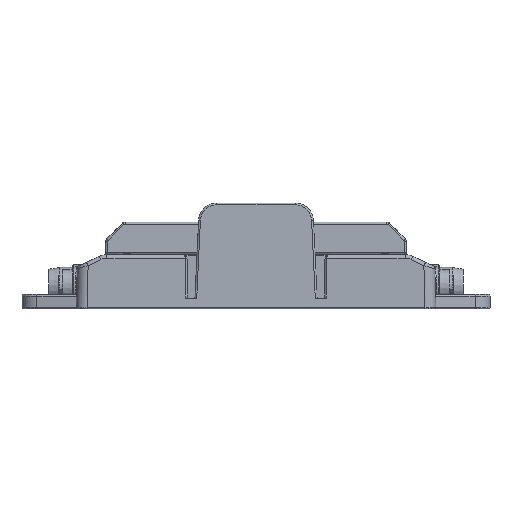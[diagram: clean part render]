
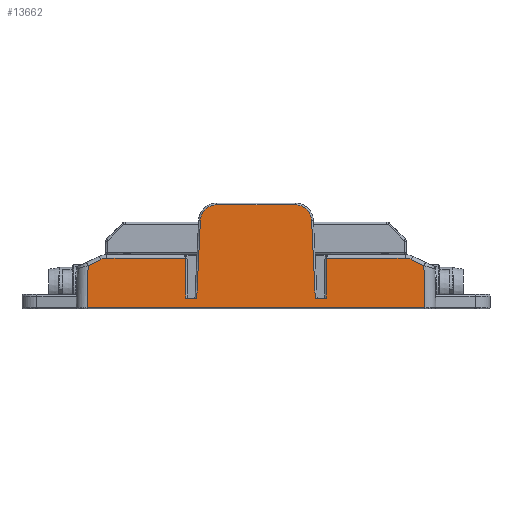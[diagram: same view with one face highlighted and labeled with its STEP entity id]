
A CAD part, front view. The second image highlights one B-rep face of the part: STEP entity #13662.
In plain terms, the highlighted planar face has unit normal (0, -1, 0.024).
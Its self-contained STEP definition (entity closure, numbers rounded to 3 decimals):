
#5786=B_SPLINE_CURVE_WITH_KNOTS('',3,(#54538,#54539,#54540,#54541,#54542,
#54543),.UNSPECIFIED.,.F.,.F.,(4,2,4),(0.,0.5,1.),.UNSPECIFIED.);
#5787=B_SPLINE_CURVE_WITH_KNOTS('',3,(#54547,#54548,#54549,#54550,#54551,
#54552),.UNSPECIFIED.,.F.,.F.,(4,2,4),(0.,0.5,1.),.UNSPECIFIED.);
#8469=LINE('',#54451,#11074);
#8500=LINE('',#54532,#11105);
#8501=LINE('',#54534,#11106);
#8502=LINE('',#54536,#11107);
#8503=LINE('',#54545,#11108);
#8504=LINE('',#54554,#11109);
#8505=LINE('',#54556,#11110);
#8506=LINE('',#54558,#11111);
#8507=LINE('',#54560,#11112);
#8508=LINE('',#54564,#11113);
#8509=LINE('',#54566,#11114);
#8510=LINE('',#54568,#11115);
#8511=LINE('',#54570,#11116);
#8512=LINE('',#54572,#11117);
#11074=VECTOR('',#44642,1.);
#11105=VECTOR('',#44693,1.);
#11106=VECTOR('',#44694,1.);
#11107=VECTOR('',#44695,1.);
#11108=VECTOR('',#44696,1.);
#11109=VECTOR('',#44697,1.);
#11110=VECTOR('',#44698,1.);
#11111=VECTOR('',#44699,1.);
#11112=VECTOR('',#44700,1.);
#11113=VECTOR('',#44703,1.);
#11114=VECTOR('',#44704,1.);
#11115=VECTOR('',#44705,1.);
#11116=VECTOR('',#44706,1.);
#11117=VECTOR('',#44707,1.);
#13662=ADVANCED_FACE('',(#16760),#15810,.T.);
#15810=PLANE('',#41010);
#16760=FACE_OUTER_BOUND('',#18648,.T.);
#18648=EDGE_LOOP('',(#21265,#21266,#21267,#21268,#21269,#21270,#21271,#21272,
#21273,#21274,#21275,#21276,#21277,#21278,#21279,#21280,#21281,#21282));
#21265=ORIENTED_EDGE('',*,*,#35552,.T.);
#21266=ORIENTED_EDGE('',*,*,#35591,.T.);
#21267=ORIENTED_EDGE('',*,*,#35592,.F.);
#21268=ORIENTED_EDGE('',*,*,#35593,.T.);
#21269=ORIENTED_EDGE('',*,*,#35594,.T.);
#21270=ORIENTED_EDGE('',*,*,#35595,.T.);
#21271=ORIENTED_EDGE('',*,*,#35596,.T.);
#21272=ORIENTED_EDGE('',*,*,#35597,.T.);
#21273=ORIENTED_EDGE('',*,*,#35598,.F.);
#21274=ORIENTED_EDGE('',*,*,#35599,.F.);
#21275=ORIENTED_EDGE('',*,*,#35600,.T.);
#21276=ORIENTED_EDGE('',*,*,#35601,.T.);
#21277=ORIENTED_EDGE('',*,*,#35602,.T.);
#21278=ORIENTED_EDGE('',*,*,#35603,.T.);
#21279=ORIENTED_EDGE('',*,*,#35604,.T.);
#21280=ORIENTED_EDGE('',*,*,#35605,.T.);
#21281=ORIENTED_EDGE('',*,*,#35606,.T.);
#21282=ORIENTED_EDGE('',*,*,#35589,.T.);
#31951=VERTEX_POINT('',#54439);
#31953=VERTEX_POINT('',#54450);
#31989=VERTEX_POINT('',#54526);
#31990=VERTEX_POINT('',#54533);
#31991=VERTEX_POINT('',#54535);
#31992=VERTEX_POINT('',#54537);
#31993=VERTEX_POINT('',#54544);
#31994=VERTEX_POINT('',#54546);
#31995=VERTEX_POINT('',#54553);
#31996=VERTEX_POINT('',#54555);
#31997=VERTEX_POINT('',#54557);
#31998=VERTEX_POINT('',#54559);
#31999=VERTEX_POINT('',#54561);
#32000=VERTEX_POINT('',#54563);
#32001=VERTEX_POINT('',#54565);
#32002=VERTEX_POINT('',#54567);
#32003=VERTEX_POINT('',#54569);
#32004=VERTEX_POINT('',#54571);
#35552=EDGE_CURVE('',#31951,#31953,#8469,.T.);
#35589=EDGE_CURVE('',#31989,#31951,#40842,.T.);
#35591=EDGE_CURVE('',#31953,#31990,#8500,.T.);
#35592=EDGE_CURVE('',#31991,#31990,#8501,.T.);
#35593=EDGE_CURVE('',#31991,#31992,#8502,.T.);
#35594=EDGE_CURVE('',#31992,#31993,#5786,.T.);
#35595=EDGE_CURVE('',#31993,#31994,#8503,.T.);
#35596=EDGE_CURVE('',#31994,#31995,#5787,.T.);
#35597=EDGE_CURVE('',#31995,#31996,#8504,.T.);
#35598=EDGE_CURVE('',#31997,#31996,#8505,.T.);
#35599=EDGE_CURVE('',#31998,#31997,#8506,.T.);
#35600=EDGE_CURVE('',#31998,#31999,#8507,.T.);
#35601=EDGE_CURVE('',#31999,#32000,#40843,.T.);
#35602=EDGE_CURVE('',#32000,#32001,#8508,.T.);
#35603=EDGE_CURVE('',#32001,#32002,#8509,.T.);
#35604=EDGE_CURVE('',#32002,#32003,#8510,.T.);
#35605=EDGE_CURVE('',#32003,#32004,#8511,.T.);
#35606=EDGE_CURVE('',#32004,#31989,#8512,.T.);
#40842=ELLIPSE('',#41007,4.001,4.);
#40843=ELLIPSE('',#41009,4.001,4.);
#41007=AXIS2_PLACEMENT_3D('',#54525,#44689,#44690);
#41009=AXIS2_PLACEMENT_3D('',#54562,#44701,#44702);
#41010=AXIS2_PLACEMENT_3D('',#54573,#44708,#44709);
#44642=DIRECTION('',(-1.,0.,0.));
#44689=DIRECTION('',(0.,-1.,0.024));
#44690=DIRECTION('',(0.,-0.024,-1.));
#44693=DIRECTION('',(-0.009,-0.024,-1.));
#44694=DIRECTION('',(1.,0.,0.));
#44695=DIRECTION('',(-0.047,0.024,0.999));
#44696=DIRECTION('',(-1.,0.,0.));
#44697=DIRECTION('',(-0.047,-0.024,-0.999));
#44698=DIRECTION('',(1.,0.,0.));
#44699=DIRECTION('',(0.009,-0.024,-1.));
#44700=DIRECTION('',(-1.,0.,0.));
#44701=DIRECTION('',(0.,-1.,0.024));
#44702=DIRECTION('',(0.,-0.024,-1.));
#44703=DIRECTION('',(-0.906,-0.01,-0.423));
#44704=DIRECTION('',(-0.026,-0.024,-0.999));
#44705=DIRECTION('',(1.,0.,0.));
#44706=DIRECTION('',(-0.026,0.024,0.999));
#44707=DIRECTION('',(-0.906,0.01,0.423));
#44708=DIRECTION('',(0.,-1.,0.024));
#44709=DIRECTION('',(0.,-0.024,-1.));
#54439=CARTESIAN_POINT('',(41.278,0.337,13.724));
#54450=CARTESIAN_POINT('',(19.613,0.337,13.72));
#54451=CARTESIAN_POINT('',(-77.,0.337,13.724));
#54525=CARTESIAN_POINT('',(41.278,0.24,9.724));
#54526=CARTESIAN_POINT('',(42.968,0.328,13.349));
#54532=CARTESIAN_POINT('',(19.514,0.063,2.388));
#54533=CARTESIAN_POINT('',(19.516,0.071,2.7));
#54534=CARTESIAN_POINT('',(49.,0.071,2.7));
#54535=CARTESIAN_POINT('',(16.42,0.071,2.7));
#54536=CARTESIAN_POINT('',(16.967,-0.207,-8.796));
#54537=CARTESIAN_POINT('',(15.397,0.591,24.226));
#54538=CARTESIAN_POINT('',(15.397,0.591,24.226));
#54539=CARTESIAN_POINT('',(15.343,0.618,25.37));
#54540=CARTESIAN_POINT('',(14.836,0.645,26.479));
#54541=CARTESIAN_POINT('',(13.179,0.683,28.059));
#54542=CARTESIAN_POINT('',(12.049,0.694,28.512));
#54543=CARTESIAN_POINT('',(10.902,0.694,28.512));
#54544=CARTESIAN_POINT('',(10.902,0.694,28.512));
#54545=CARTESIAN_POINT('',(49.,0.694,28.512));
#54546=CARTESIAN_POINT('',(-10.902,0.694,28.512));
#54547=CARTESIAN_POINT('',(-10.902,0.694,28.512));
#54548=CARTESIAN_POINT('',(-12.047,0.694,28.512));
#54549=CARTESIAN_POINT('',(-13.179,0.683,28.058));
#54550=CARTESIAN_POINT('',(-14.836,0.645,26.479));
#54551=CARTESIAN_POINT('',(-15.342,0.618,25.371));
#54552=CARTESIAN_POINT('',(-15.397,0.591,24.226));
#54553=CARTESIAN_POINT('',(-15.397,0.591,24.226));
#54554=CARTESIAN_POINT('',(-16.746,-0.095,-4.15));
#54555=CARTESIAN_POINT('',(-16.42,0.071,2.7));
#54556=CARTESIAN_POINT('',(49.,0.071,2.7));
#54557=CARTESIAN_POINT('',(-19.516,0.071,2.7));
#54558=CARTESIAN_POINT('',(-19.424,-0.185,-7.871));
#54559=CARTESIAN_POINT('',(-19.613,0.337,13.72));
#54560=CARTESIAN_POINT('',(-77.,0.337,13.724));
#54561=CARTESIAN_POINT('',(-41.278,0.337,13.724));
#54562=CARTESIAN_POINT('',(-41.278,0.24,9.724));
#54563=CARTESIAN_POINT('',(-42.968,0.328,13.349));
#54564=CARTESIAN_POINT('',(24.663,1.09,44.886));
#54565=CARTESIAN_POINT('',(-46.503,0.288,11.701));
#54566=CARTESIAN_POINT('',(-46.934,-0.11,-4.764));
#54567=CARTESIAN_POINT('',(-46.81,0.005,0.));
#54568=CARTESIAN_POINT('',(49.,0.005,0.));
#54569=CARTESIAN_POINT('',(46.81,0.005,0.));
#54570=CARTESIAN_POINT('',(47.002,-0.172,-7.327));
#54571=CARTESIAN_POINT('',(46.503,0.288,11.701));
#54572=CARTESIAN_POINT('',(55.825,0.183,7.354));
#54573=CARTESIAN_POINT('',(49.,-0.17,-7.274));
